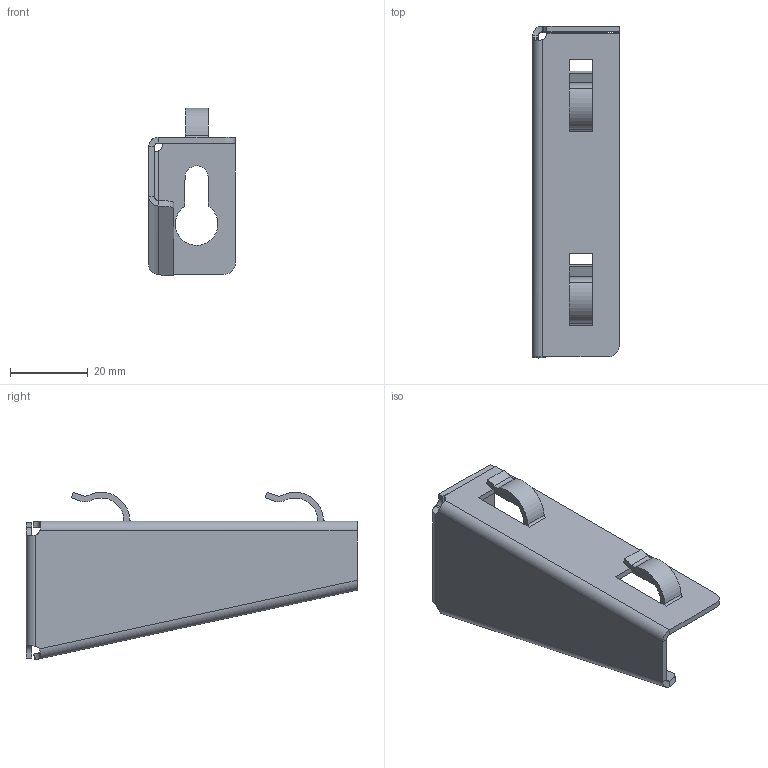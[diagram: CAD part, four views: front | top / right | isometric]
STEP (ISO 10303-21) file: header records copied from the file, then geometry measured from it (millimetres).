
FILE_DESCRIPTION(/* description */ (''),/* implementation_level */ '2;1');
FILE_NAME(/* name */ 'NZM050',/* time_stamp */ '2025-03-13T20:33:03+01:00',/* author */ (''),/* organization */ (''),/* preprocessor_version */ 'ST-DEVELOPER v16.5',/* originating_system */ '',/* authorisation */ '');
FILE_SCHEMA (('CONFIG_CONTROL_DESIGN'));
Length unit declared in the file: millimetre
Products named in the file (1): Document
Bounding box: 22.39 x 85.63 x 43.21 mm (x, y, z)
Volume: 7253.5 mm3; surface area: 10617.9 mm2
Topology: 3 solids, 3 shells, 77 faces, 189 edges, 118 vertices
Faces by surface type: plane 33, bspline 24, cylinder 20
Entity records: 2350 total; most frequent: CARTESIAN_POINT 1099, ORIENTED_EDGE 378, EDGE_CURVE 189, VERTEX_POINT 118, EDGE_LOOP 83, ADVANCED_FACE 77, FACE_OUTER_BOUND 77, B_SPLINE_CURVE_WITH_KNOTS 63
